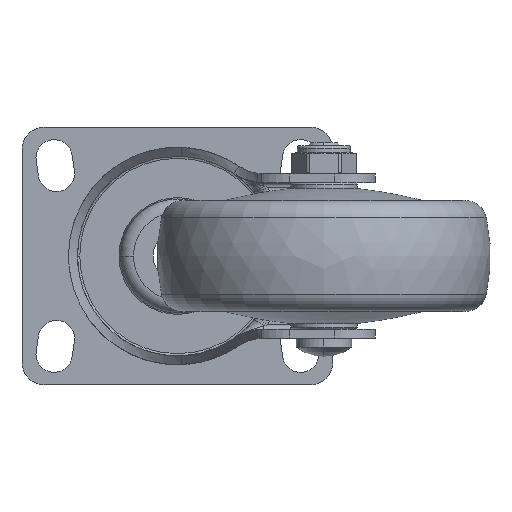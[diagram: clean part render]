
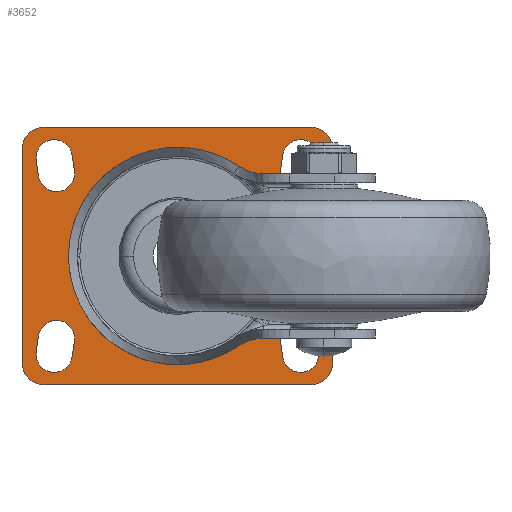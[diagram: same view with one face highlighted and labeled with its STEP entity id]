
A CAD part, front view. The second image highlights one B-rep face of the part: STEP entity #3652.
In plain terms, the highlighted planar face has unit normal (0, -1, 0).
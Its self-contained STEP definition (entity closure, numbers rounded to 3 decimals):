
#2937=CARTESIAN_POINT('',(0.,6.5,0.));
#2938=DIRECTION('',(0.,1.,0.));
#2939=DIRECTION('',(1.,0.,0.));
#2940=AXIS2_PLACEMENT_3D('',#2937,#2938,#2939);
#2942=CARTESIAN_POINT('',(0.,6.5,0.));
#2943=DIRECTION('',(0.,-1.,0.));
#2944=DIRECTION('',(1.,0.,0.));
#2945=AXIS2_PLACEMENT_3D('',#2942,#2943,#2944);
#2947=DIRECTION('',(0.141,0.,0.99));
#2948=VECTOR('',#2947,3.536);
#2949=CARTESIAN_POINT('',(23.191,6.5,19.18));
#2950=LINE('',#2949,#2948);
#2951=CARTESIAN_POINT('',(27.25,6.5,18.6));
#2952=DIRECTION('',(0.,-1.,0.));
#2953=DIRECTION('',(-0.99,0.,0.141));
#2954=AXIS2_PLACEMENT_3D('',#2951,#2952,#2953);
#2956=DIRECTION('',(-0.141,0.,-0.99));
#2957=VECTOR('',#2956,3.536);
#2958=CARTESIAN_POINT('',(31.809,6.5,21.52));
#2959=LINE('',#2958,#2957);
#2960=CARTESIAN_POINT('',(27.75,6.5,22.1));
#2961=DIRECTION('',(0.,-1.,0.));
#2962=DIRECTION('',(0.99,0.,-0.141));
#2963=AXIS2_PLACEMENT_3D('',#2960,#2961,#2962);
#2965=CARTESIAN_POINT('',(-27.75,6.5,22.1));
#2966=DIRECTION('',(0.,-1.,0.));
#2967=DIRECTION('',(0.99,0.,0.141));
#2968=AXIS2_PLACEMENT_3D('',#2965,#2966,#2967);
#2970=DIRECTION('',(-0.141,0.,0.99));
#2971=VECTOR('',#2970,3.536);
#2972=CARTESIAN_POINT('',(-31.309,6.5,18.02));
#2973=LINE('',#2972,#2971);
#2974=CARTESIAN_POINT('',(-27.25,6.5,18.6));
#2975=DIRECTION('',(0.,-1.,0.));
#2976=DIRECTION('',(-0.99,0.,-0.141));
#2977=AXIS2_PLACEMENT_3D('',#2974,#2975,#2976);
#2979=DIRECTION('',(0.141,0.,-0.99));
#2980=VECTOR('',#2979,3.536);
#2981=CARTESIAN_POINT('',(-23.691,6.5,22.68));
#2982=LINE('',#2981,#2980);
#2983=DIRECTION('',(-0.141,0.,-0.99));
#2984=VECTOR('',#2983,3.536);
#2985=CARTESIAN_POINT('',(-23.191,6.5,-19.18));
#2986=LINE('',#2985,#2984);
#2987=CARTESIAN_POINT('',(-27.25,6.5,-18.6));
#2988=DIRECTION('',(0.,-1.,0.));
#2989=DIRECTION('',(0.99,0.,-0.141));
#2990=AXIS2_PLACEMENT_3D('',#2987,#2988,#2989);
#2992=DIRECTION('',(0.141,0.,0.99));
#2993=VECTOR('',#2992,3.536);
#2994=CARTESIAN_POINT('',(-31.809,6.5,-21.52));
#2995=LINE('',#2994,#2993);
#2996=CARTESIAN_POINT('',(-27.75,6.5,-22.1));
#2997=DIRECTION('',(0.,-1.,0.));
#2998=DIRECTION('',(-0.99,0.,0.141));
#2999=AXIS2_PLACEMENT_3D('',#2996,#2997,#2998);
#3001=CARTESIAN_POINT('',(27.75,6.5,-22.1));
#3002=DIRECTION('',(0.,-1.,0.));
#3003=DIRECTION('',(-0.99,0.,-0.141));
#3004=AXIS2_PLACEMENT_3D('',#3001,#3002,#3003);
#3006=DIRECTION('',(0.141,0.,-0.99));
#3007=VECTOR('',#3006,3.536);
#3008=CARTESIAN_POINT('',(31.309,6.5,-18.02));
#3009=LINE('',#3008,#3007);
#3010=CARTESIAN_POINT('',(27.25,6.5,-18.6));
#3011=DIRECTION('',(0.,-1.,0.));
#3012=DIRECTION('',(0.99,0.,0.141));
#3013=AXIS2_PLACEMENT_3D('',#3010,#3011,#3012);
#3015=DIRECTION('',(-0.141,0.,0.99));
#3016=VECTOR('',#3015,3.536);
#3017=CARTESIAN_POINT('',(23.691,6.5,-22.68));
#3018=LINE('',#3017,#3016);
#3019=CARTESIAN_POINT('',(30.,6.5,-24.));
#3020=DIRECTION('',(0.,-1.,0.));
#3021=DIRECTION('',(0.,0.,-1.));
#3022=AXIS2_PLACEMENT_3D('',#3019,#3020,#3021);
#3024=DIRECTION('',(1.,0.,0.));
#3025=VECTOR('',#3024,60.);
#3026=CARTESIAN_POINT('',(-30.,6.5,-29.));
#3027=LINE('',#3026,#3025);
#3028=CARTESIAN_POINT('',(-30.,6.5,-24.));
#3029=DIRECTION('',(0.,-1.,0.));
#3030=DIRECTION('',(-1.,0.,0.));
#3031=AXIS2_PLACEMENT_3D('',#3028,#3029,#3030);
#3033=DIRECTION('',(0.,0.,-1.));
#3034=VECTOR('',#3033,48.);
#3035=CARTESIAN_POINT('',(-35.,6.5,24.));
#3036=LINE('',#3035,#3034);
#3037=CARTESIAN_POINT('',(-30.,6.5,24.));
#3038=DIRECTION('',(0.,-1.,0.));
#3039=DIRECTION('',(0.,0.,1.));
#3040=AXIS2_PLACEMENT_3D('',#3037,#3038,#3039);
#3042=DIRECTION('',(-1.,0.,0.));
#3043=VECTOR('',#3042,60.);
#3044=CARTESIAN_POINT('',(30.,6.5,29.));
#3045=LINE('',#3044,#3043);
#3046=CARTESIAN_POINT('',(30.,6.5,24.));
#3047=DIRECTION('',(0.,-1.,0.));
#3048=DIRECTION('',(1.,0.,0.));
#3049=AXIS2_PLACEMENT_3D('',#3046,#3047,#3048);
#3051=DIRECTION('',(0.,0.,1.));
#3052=VECTOR('',#3051,48.);
#3053=CARTESIAN_POINT('',(35.,6.5,-24.));
#3054=LINE('',#3053,#3052);
#3152=CARTESIAN_POINT('',(23.691,6.5,22.68));
#3154=VERTEX_POINT('',#3152);
#3156=CARTESIAN_POINT('',(31.809,6.5,21.52));
#3158=VERTEX_POINT('',#3156);
#3160=CARTESIAN_POINT('',(31.309,6.5,18.02));
#3162=VERTEX_POINT('',#3160);
#3164=CARTESIAN_POINT('',(23.191,6.5,19.18));
#3166=VERTEX_POINT('',#3164);
#3168=CARTESIAN_POINT('',(-23.691,6.5,22.68));
#3170=VERTEX_POINT('',#3168);
#3172=CARTESIAN_POINT('',(-23.191,6.5,19.18));
#3174=VERTEX_POINT('',#3172);
#3176=CARTESIAN_POINT('',(-31.309,6.5,18.02));
#3178=VERTEX_POINT('',#3176);
#3180=CARTESIAN_POINT('',(-31.809,6.5,21.52));
#3182=VERTEX_POINT('',#3180);
#3184=CARTESIAN_POINT('',(-23.691,6.5,-22.68));
#3186=VERTEX_POINT('',#3184);
#3188=CARTESIAN_POINT('',(-31.809,6.5,-21.52));
#3190=VERTEX_POINT('',#3188);
#3192=CARTESIAN_POINT('',(-31.309,6.5,-18.02));
#3194=VERTEX_POINT('',#3192);
#3196=CARTESIAN_POINT('',(-23.191,6.5,-19.18));
#3198=VERTEX_POINT('',#3196);
#3200=CARTESIAN_POINT('',(23.691,6.5,-22.68));
#3202=VERTEX_POINT('',#3200);
#3204=CARTESIAN_POINT('',(23.191,6.5,-19.18));
#3206=VERTEX_POINT('',#3204);
#3208=CARTESIAN_POINT('',(31.309,6.5,-18.02));
#3210=VERTEX_POINT('',#3208);
#3212=CARTESIAN_POINT('',(31.809,6.5,-21.52));
#3214=VERTEX_POINT('',#3212);
#3233=CARTESIAN_POINT('',(14.177,6.5,0.));
#3234=VERTEX_POINT('',#3233);
#3253=CARTESIAN_POINT('',(-14.177,6.5,0.));
#3254=VERTEX_POINT('',#3253);
#3259=CARTESIAN_POINT('',(30.,6.5,-29.));
#3260=VERTEX_POINT('',#3259);
#3261=CARTESIAN_POINT('',(35.,6.5,-24.));
#3262=VERTEX_POINT('',#3261);
#3267=CARTESIAN_POINT('',(-35.,6.5,-24.));
#3268=VERTEX_POINT('',#3267);
#3269=CARTESIAN_POINT('',(-30.,6.5,-29.));
#3270=VERTEX_POINT('',#3269);
#3275=CARTESIAN_POINT('',(-30.,6.5,29.));
#3276=VERTEX_POINT('',#3275);
#3277=CARTESIAN_POINT('',(-35.,6.5,24.));
#3278=VERTEX_POINT('',#3277);
#3283=CARTESIAN_POINT('',(35.,6.5,24.));
#3284=VERTEX_POINT('',#3283);
#3285=CARTESIAN_POINT('',(30.,6.5,29.));
#3286=VERTEX_POINT('',#3285);
#3585=CARTESIAN_POINT('',(0.,6.5,0.));
#3586=DIRECTION('',(0.,-1.,0.));
#3587=DIRECTION('',(-1.,0.,0.));
#3588=AXIS2_PLACEMENT_3D('',#3585,#3586,#3587);
#3589=PLANE('',#3588);
#3591=ORIENTED_EDGE('',*,*,#3590,.F.);
#3593=ORIENTED_EDGE('',*,*,#3592,.F.);
#3595=ORIENTED_EDGE('',*,*,#3594,.F.);
#3597=ORIENTED_EDGE('',*,*,#3596,.F.);
#3599=ORIENTED_EDGE('',*,*,#3598,.F.);
#3601=ORIENTED_EDGE('',*,*,#3600,.F.);
#3603=ORIENTED_EDGE('',*,*,#3602,.F.);
#3605=ORIENTED_EDGE('',*,*,#3604,.F.);
#3606=EDGE_LOOP('',(#3591,#3593,#3595,#3597,#3599,#3601,#3603,#3605));
#3607=FACE_OUTER_BOUND('',#3606,.F.);
#3609=ORIENTED_EDGE('',*,*,#3608,.F.);
#3611=ORIENTED_EDGE('',*,*,#3610,.T.);
#3613=ORIENTED_EDGE('',*,*,#3612,.F.);
#3615=ORIENTED_EDGE('',*,*,#3614,.T.);
#3616=EDGE_LOOP('',(#3609,#3611,#3613,#3615));
#3617=FACE_BOUND('',#3616,.F.);
#3619=ORIENTED_EDGE('',*,*,#3618,.T.);
#3621=ORIENTED_EDGE('',*,*,#3620,.F.);
#3623=ORIENTED_EDGE('',*,*,#3622,.T.);
#3625=ORIENTED_EDGE('',*,*,#3624,.F.);
#3626=EDGE_LOOP('',(#3619,#3621,#3623,#3625));
#3627=FACE_BOUND('',#3626,.F.);
#3629=ORIENTED_EDGE('',*,*,#3628,.F.);
#3631=ORIENTED_EDGE('',*,*,#3630,.T.);
#3633=ORIENTED_EDGE('',*,*,#3632,.F.);
#3635=ORIENTED_EDGE('',*,*,#3634,.T.);
#3636=EDGE_LOOP('',(#3629,#3631,#3633,#3635));
#3637=FACE_BOUND('',#3636,.F.);
#3639=ORIENTED_EDGE('',*,*,#3638,.T.);
#3641=ORIENTED_EDGE('',*,*,#3640,.F.);
#3643=ORIENTED_EDGE('',*,*,#3642,.T.);
#3645=ORIENTED_EDGE('',*,*,#3644,.F.);
#3646=EDGE_LOOP('',(#3639,#3641,#3643,#3645));
#3647=FACE_BOUND('',#3646,.F.);
#3648=ORIENTED_EDGE('',*,*,#3578,.F.);
#3649=ORIENTED_EDGE('',*,*,#3567,.T.);
#3650=EDGE_LOOP('',(#3648,#3649));
#3651=FACE_BOUND('',#3650,.F.);
#2941=CIRCLE('',#2940,14.177);
#2946=CIRCLE('',#2945,14.177);
#2955=CIRCLE('',#2954,4.1);
#2964=CIRCLE('',#2963,4.1);
#2969=CIRCLE('',#2968,4.1);
#2978=CIRCLE('',#2977,4.1);
#2991=CIRCLE('',#2990,4.1);
#3000=CIRCLE('',#2999,4.1);
#3005=CIRCLE('',#3004,4.1);
#3014=CIRCLE('',#3013,4.1);
#3023=CIRCLE('',#3022,5.);
#3032=CIRCLE('',#3031,5.);
#3041=CIRCLE('',#3040,5.);
#3050=CIRCLE('',#3049,5.);
#3567=EDGE_CURVE('',#3234,#3254,#2946,.T.);
#3578=EDGE_CURVE('',#3234,#3254,#2941,.T.);
#3590=EDGE_CURVE('',#3260,#3262,#3023,.T.);
#3592=EDGE_CURVE('',#3270,#3260,#3027,.T.);
#3594=EDGE_CURVE('',#3268,#3270,#3032,.T.);
#3596=EDGE_CURVE('',#3278,#3268,#3036,.T.);
#3598=EDGE_CURVE('',#3276,#3278,#3041,.T.);
#3600=EDGE_CURVE('',#3286,#3276,#3045,.T.);
#3602=EDGE_CURVE('',#3284,#3286,#3050,.T.);
#3604=EDGE_CURVE('',#3262,#3284,#3054,.T.);
#3608=EDGE_CURVE('',#3166,#3154,#2950,.T.);
#3610=EDGE_CURVE('',#3166,#3162,#2955,.T.);
#3612=EDGE_CURVE('',#3158,#3162,#2959,.T.);
#3614=EDGE_CURVE('',#3158,#3154,#2964,.T.);
#3618=EDGE_CURVE('',#3170,#3182,#2969,.T.);
#3620=EDGE_CURVE('',#3178,#3182,#2973,.T.);
#3622=EDGE_CURVE('',#3178,#3174,#2978,.T.);
#3624=EDGE_CURVE('',#3170,#3174,#2982,.T.);
#3628=EDGE_CURVE('',#3198,#3186,#2986,.T.);
#3630=EDGE_CURVE('',#3198,#3194,#2991,.T.);
#3632=EDGE_CURVE('',#3190,#3194,#2995,.T.);
#3634=EDGE_CURVE('',#3190,#3186,#3000,.T.);
#3638=EDGE_CURVE('',#3202,#3214,#3005,.T.);
#3640=EDGE_CURVE('',#3210,#3214,#3009,.T.);
#3642=EDGE_CURVE('',#3210,#3206,#3014,.T.);
#3644=EDGE_CURVE('',#3202,#3206,#3018,.T.);
#3652=ADVANCED_FACE('',(#3607,#3617,#3627,#3637,#3647,#3651),#3589,.T.);
